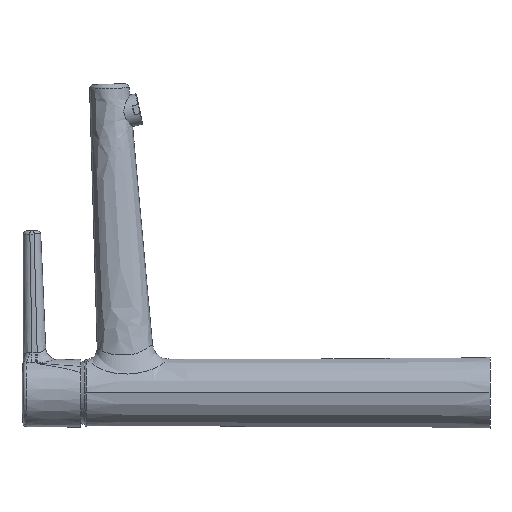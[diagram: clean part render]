
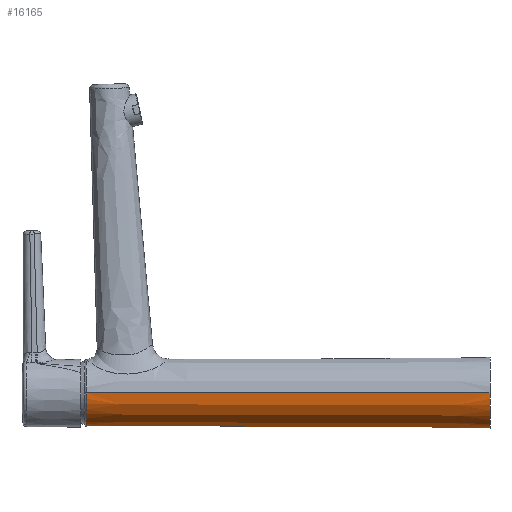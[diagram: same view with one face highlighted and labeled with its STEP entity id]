
A CAD part, left-side view. The second image highlights one B-rep face of the part: STEP entity #16165.
In plain terms, the highlighted conical face has half-angle 0.279 degrees and reference radius 21.877 mm.
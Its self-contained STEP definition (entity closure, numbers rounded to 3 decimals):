
#165=CARTESIAN_POINT('',(0.,256.204,0.));
#166=DIRECTION('',(0.,-1.,0.));
#167=DIRECTION('',(-1.,0.,0.));
#168=AXIS2_PLACEMENT_3D('',#165,#166,#167);
#170=DIRECTION('',(-0.005,-1.,0.));
#171=VECTOR('',#170,256.207);
#172=CARTESIAN_POINT('',(-21.254,256.204,
0.));
#173=LINE('',#172,#171);
#174=DIRECTION('',(0.005,-1.,0.));
#175=VECTOR('',#174,256.207);
#176=CARTESIAN_POINT('',(21.254,256.204,0.));
#177=LINE('',#176,#175);
#183=CARTESIAN_POINT('',(0.,0.,0.));
#184=DIRECTION('',(0.,-1.,0.));
#185=DIRECTION('',(-1.,0.,0.));
#186=AXIS2_PLACEMENT_3D('',#183,#184,#185);
#15901=CARTESIAN_POINT('',(-22.5,0.,0.));
#15902=CARTESIAN_POINT('',(22.5,0.,0.));
#15903=VERTEX_POINT('',#15901);
#15904=VERTEX_POINT('',#15902);
#15913=CARTESIAN_POINT('',(21.254,256.204,0.));
#15914=CARTESIAN_POINT('',(-21.254,256.204,0.));
#15915=VERTEX_POINT('',#15913);
#15916=VERTEX_POINT('',#15914);
#16152=CARTESIAN_POINT('',(0.,128.102,0.));
#16153=DIRECTION('',(0.,-1.,0.));
#16154=DIRECTION('',(-1.,0.,0.));
#16155=AXIS2_PLACEMENT_3D('',#16152,#16153,#16154);
#16156=CONICAL_SURFACE('',#16155,21.877,0.279);
#16158=ORIENTED_EDGE('',*,*,#16157,.F.);
#16159=ORIENTED_EDGE('',*,*,#16141,.T.);
#16161=ORIENTED_EDGE('',*,*,#16160,.T.);
#16162=ORIENTED_EDGE('',*,*,#16137,.F.);
#16163=EDGE_LOOP('',(#16158,#16159,#16161,#16162));
#16164=FACE_OUTER_BOUND('',#16163,.F.);
#16165=ADVANCED_FACE('',(#16164),#16156,.T.);
#169=CIRCLE('',#168,21.254);
#187=CIRCLE('',#186,22.5);
#16137=EDGE_CURVE('',#15915,#15904,#177,.T.);
#16141=EDGE_CURVE('',#15916,#15903,#173,.T.);
#16157=EDGE_CURVE('',#15916,#15915,#169,.T.);
#16160=EDGE_CURVE('',#15903,#15904,#187,.T.);
